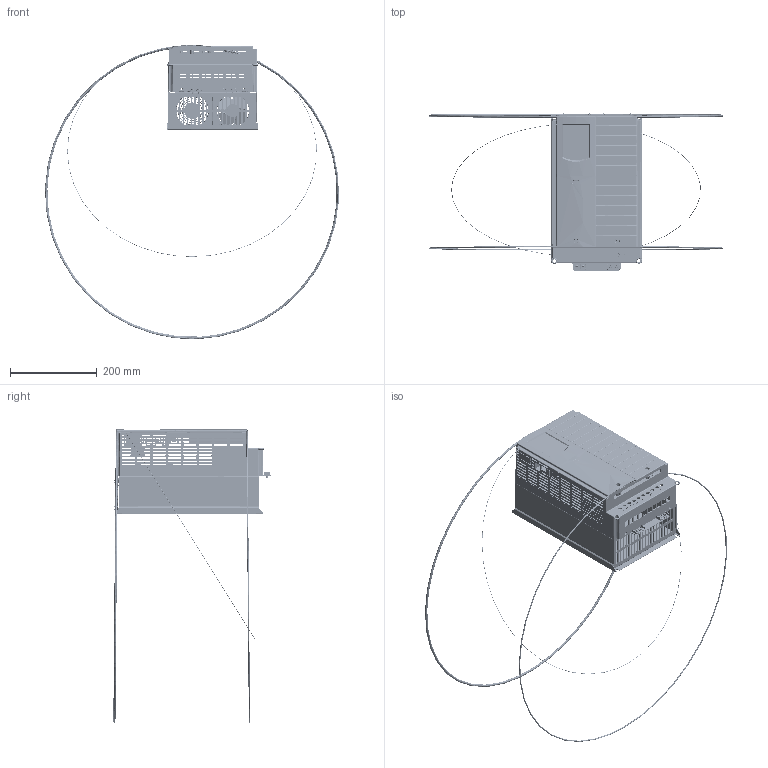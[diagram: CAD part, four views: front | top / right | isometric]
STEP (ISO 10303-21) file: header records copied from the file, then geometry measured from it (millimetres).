
FILE_DESCRIPTION((''),'2;1');
FILE_NAME('E6_ASM','2021-01-25T',('Lenovo'),(''),'CREO PARAMETRIC BY PTC INC, 2016130','CREO PARAMETRIC BY PTC INC, 2016130','');
FILE_SCHEMA(('CONFIG_CONTROL_DESIGN'));
Products named in the file (1): E6_ASM
Bounding box: 677.78 x 362.93 x 678.42 mm (x, y, z)
Surface area: 1055516 mm2 (no closed solid volume)
Topology: 0 solids, 0 shells, 5159 faces, 30705 edges, 30441 vertices
Faces by surface type: bspline 4851, torus 236, sphere 72
Entity records: 460353 total; most frequent: CARTESIAN_POINT 193598, DIRECTION 40215, TRIMMED_CURVE 36570, VECTOR 33541, LINE 33541, DEFINITIONAL_REPRESENTATION 30249, PCURVE 30249, COMPOSITE_CURVE_SEGMENT 30249
